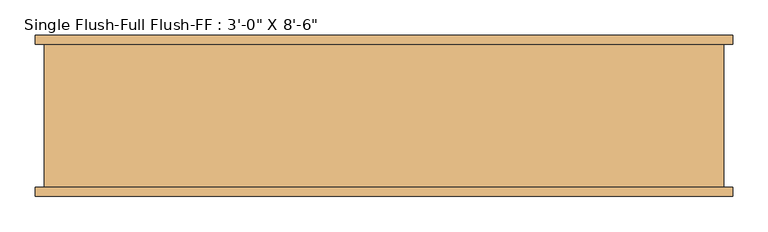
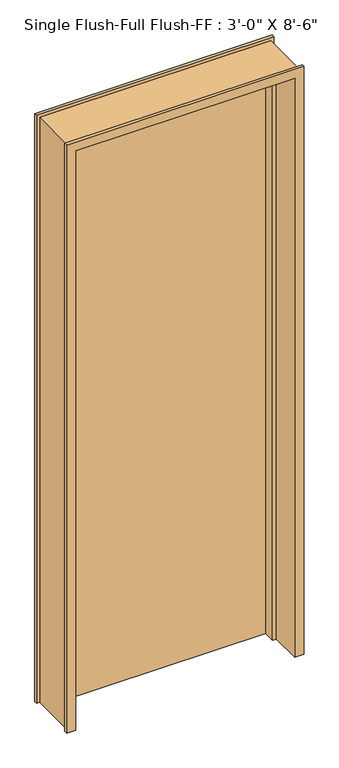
"""IFC4 building model written with IfcOpenShell, lengths in millimetres: door geometry."""

from ifc_helpers import new_model, si_unit, origin, origin_with_axes, place, context, project, spatial, polyline, outline, extrude, faceted_brep, source, transform, mapped, element, save


def door_ce57b39e(model_context):
    return source(origin(), model_context, "Body", "SolidModel", [
        extrude(outline(polyline([(457.2, 69.85), (-457.2, 69.85), (-457.2, 114.3), (457.2, 114.3), (457.2, 69.85)])), origin_with_axes(), (0.0, 0.0, 1.0), 2552.7),
        faceted_brep([(495.3, -101.6, 0.0), (495.3, -114.3, 0.0), (457.2, -114.3, 0.0), (457.2, 19.05, 0.0), (441.325, 19.05, 0.0), (441.325, 69.85, 0.0), (457.2, 69.85, 0.0), (457.2, 114.3, 0.0), (495.3, 114.3, 0.0), (495.3, 101.6, 0.0), (482.6, 101.6, 0.0), (482.6, -101.6, 0.0), (495.3, -101.6, 2590.8), (495.3, -114.3, 2590.8), (-495.3, -114.3, 2590.8), (-495.3, -114.3, 0.0), (-457.2, -114.3, 0.0), (-457.2, -114.3, 2552.7), (457.2, -114.3, 2552.7), (457.2, 19.05, 2552.7), (-457.2, 19.05, 2552.7), (-457.2, 19.05, 0.0), (-441.325, 19.05, 0.0), (-441.325, 19.05, 2536.825), (441.325, 19.05, 2536.825), (441.325, 69.85, 2536.825), (-441.325, 69.85, 2536.825), (-441.325, 69.85, 0.0), (-457.2, 69.85, 0.0), (-457.2, 69.85, 2552.7), (457.2, 69.85, 2552.7), (457.2, 114.3, 2552.7), (-457.2, 114.3, 2552.7), (-457.2, 114.3, 0.0), (-495.3, 114.3, 0.0), (-495.3, 114.3, 2590.8), (495.3, 114.3, 2590.8), (495.3, 101.6, 2590.8), (-495.3, 101.6, 2590.8), (-495.3, 101.6, 0.0), (-482.6, 101.6, 0.0), (-482.6, 101.6, 2578.1), (482.6, 101.6, 2578.1), (482.6, -101.6, 2578.1), (-482.6, -101.6, 2578.1), (-482.6, -101.6, 0.0), (-495.3, -101.6, 0.0), (-495.3, -101.6, 2590.8)], [[[0, 1, 2, 3, 4, 5, 6, 7, 8, 9, 10, 11]], [[1, 0, 12, 13]], [[2, 1, 13, 14, 15, 16, 17, 18]], [[3, 2, 18, 19]], [[4, 3, 19, 20, 21, 22, 23, 24]], [[5, 4, 24, 25]], [[6, 5, 25, 26, 27, 28, 29, 30]], [[7, 6, 30, 31]], [[8, 7, 31, 32, 33, 34, 35, 36]], [[9, 8, 36, 37]], [[10, 9, 37, 38, 39, 40, 41, 42]], [[11, 10, 42, 43]], [[0, 11, 43, 44, 45, 46, 47, 12]], [[14, 47, 46, 15]], [[46, 45, 40, 39, 34, 33, 28, 27, 22, 21, 16, 15]], [[20, 17, 16, 21]], [[26, 23, 22, 27]], [[32, 29, 28, 33]], [[38, 35, 34, 39]], [[44, 41, 40, 45]], [[13, 12, 47, 14]], [[19, 18, 17, 20]], [[25, 24, 23, 26]], [[31, 30, 29, 32]], [[37, 36, 35, 38]], [[43, 42, 41, 44]]]),
    ])


if __name__ == "__main__":
    model = new_model("IFC4")
    model_context = context("Model", 3, world=origin())
    ifc_project = project(units=[si_unit("LENGTHUNIT", "METRE", prefix="MILLI")], contexts=[model_context])
    site = spatial("IfcSite", under=ifc_project)
    building = spatial("IfcBuilding", under=site)
    placement = place(None, origin())
    door_shape = door_ce57b39e(model_context)
    element("IfcDoor", 1, ObjectType="Single Flush-Full Flush-FF : 3'-0\" X 8'-6\"", at=placement, inside=building, context=model_context, shape_type="MappedRepresentation", body=[
        mapped(door_shape, transform((0.0, 0.0, 0.0), x_axis=(1.0, 0.0, 0.0), y_axis=(0.0, 1.0, 0.0), z_axis=(0.0, 0.0, 1.0))),
    ])
    save(model, "model.ifc")
